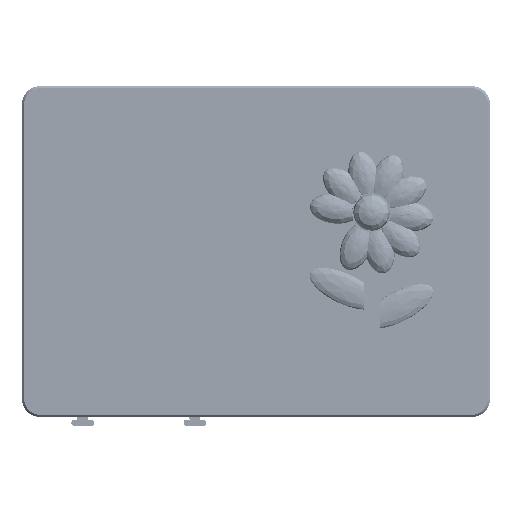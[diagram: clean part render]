
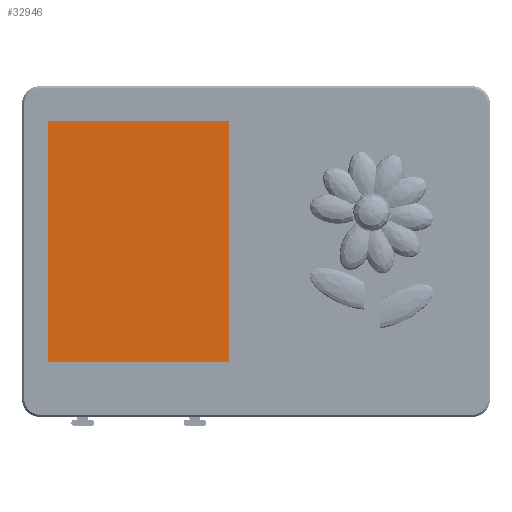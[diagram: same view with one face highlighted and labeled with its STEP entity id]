
A CAD part, top view. The second image highlights one B-rep face of the part: STEP entity #32946.
In plain terms, the highlighted planar face has unit normal (0, 0, 1).
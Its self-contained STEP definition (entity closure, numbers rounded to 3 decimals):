
#32777 = PLANE('',#32778);
#32778 = AXIS2_PLACEMENT_3D('',#32779,#32780,#32781);
#32779 = CARTESIAN_POINT('',(-35.1,22.1,10.3));
#32780 = DIRECTION('',(0.,-1.,0.));
#32781 = DIRECTION('',(1.,0.,0.));
#32805 = PLANE('',#32806);
#32806 = AXIS2_PLACEMENT_3D('',#32807,#32808,#32809);
#32807 = CARTESIAN_POINT('',(-35.1,-18.7,10.3));
#32808 = DIRECTION('',(1.,0.,0.));
#32809 = DIRECTION('',(0.,1.,0.));
#32833 = PLANE('',#32834);
#32834 = AXIS2_PLACEMENT_3D('',#32835,#32836,#32837);
#32835 = CARTESIAN_POINT('',(-4.5,-18.7,10.3));
#32836 = DIRECTION('',(0.,1.,0.));
#32837 = DIRECTION('',(-1.,0.,0.));
#32859 = PLANE('',#32860);
#32860 = AXIS2_PLACEMENT_3D('',#32861,#32862,#32863);
#32861 = CARTESIAN_POINT('',(-4.5,22.1,10.3));
#32862 = DIRECTION('',(-1.,0.,0.));
#32863 = DIRECTION('',(0.,-1.,0.));
#32874 = EDGE_CURVE('',#32875,#32877,#32879,.T.);
#32875 = VERTEX_POINT('',#32876);
#32876 = CARTESIAN_POINT('',(-35.1,22.1,10.35));
#32877 = VERTEX_POINT('',#32878);
#32878 = CARTESIAN_POINT('',(-4.5,22.1,10.35));
#32879 = SURFACE_CURVE('',#32880,(#32884,#32891),.PCURVE_S1.);
#32880 = LINE('',#32881,#32882);
#32881 = CARTESIAN_POINT('',(-35.1,22.1,10.35));
#32882 = VECTOR('',#32883,1.);
#32883 = DIRECTION('',(1.,0.,0.));
#32884 = PCURVE('',#32777,#32885);
#32885 = DEFINITIONAL_REPRESENTATION('',(#32886),#32890);
#32886 = LINE('',#32887,#32888);
#32887 = CARTESIAN_POINT('',(0.,0.05));
#32888 = VECTOR('',#32889,1.);
#32889 = DIRECTION('',(1.,0.));
#32890 = ( GEOMETRIC_REPRESENTATION_CONTEXT(2) 
PARAMETRIC_REPRESENTATION_CONTEXT() REPRESENTATION_CONTEXT('2D SPACE',''
  ) );
#32891 = PCURVE('',#32892,#32897);
#32892 = PLANE('',#32893);
#32893 = AXIS2_PLACEMENT_3D('',#32894,#32895,#32896);
#32894 = CARTESIAN_POINT('',(-19.8,1.7,10.35));
#32895 = DIRECTION('',(0.,0.,1.));
#32896 = DIRECTION('',(1.,0.,0.));
#32897 = DEFINITIONAL_REPRESENTATION('',(#32898),#32902);
#32898 = LINE('',#32899,#32900);
#32899 = CARTESIAN_POINT('',(-15.3,20.4));
#32900 = VECTOR('',#32901,1.);
#32901 = DIRECTION('',(1.,0.));
#32902 = ( GEOMETRIC_REPRESENTATION_CONTEXT(2) 
PARAMETRIC_REPRESENTATION_CONTEXT() REPRESENTATION_CONTEXT('2D SPACE',''
  ) );
#32946 = ADVANCED_FACE('',(#32947),#32892,.T.);
#32947 = FACE_BOUND('',#32948,.F.);
#32948 = EDGE_LOOP('',(#32949,#32950,#32973,#32996));
#32949 = ORIENTED_EDGE('',*,*,#32874,.T.);
#32950 = ORIENTED_EDGE('',*,*,#32951,.F.);
#32951 = EDGE_CURVE('',#32952,#32877,#32954,.T.);
#32952 = VERTEX_POINT('',#32953);
#32953 = CARTESIAN_POINT('',(-4.5,-18.7,10.35));
#32954 = SURFACE_CURVE('',#32955,(#32959,#32966),.PCURVE_S1.);
#32955 = LINE('',#32956,#32957);
#32956 = CARTESIAN_POINT('',(-4.5,-18.7,10.35));
#32957 = VECTOR('',#32958,1.);
#32958 = DIRECTION('',(0.,1.,0.));
#32959 = PCURVE('',#32892,#32960);
#32960 = DEFINITIONAL_REPRESENTATION('',(#32961),#32965);
#32961 = LINE('',#32962,#32963);
#32962 = CARTESIAN_POINT('',(15.3,-20.4));
#32963 = VECTOR('',#32964,1.);
#32964 = DIRECTION('',(0.,1.));
#32965 = ( GEOMETRIC_REPRESENTATION_CONTEXT(2) 
PARAMETRIC_REPRESENTATION_CONTEXT() REPRESENTATION_CONTEXT('2D SPACE',''
  ) );
#32966 = PCURVE('',#32859,#32967);
#32967 = DEFINITIONAL_REPRESENTATION('',(#32968),#32972);
#32968 = LINE('',#32969,#32970);
#32969 = CARTESIAN_POINT('',(40.8,0.05));
#32970 = VECTOR('',#32971,1.);
#32971 = DIRECTION('',(-1.,0.));
#32972 = ( GEOMETRIC_REPRESENTATION_CONTEXT(2) 
PARAMETRIC_REPRESENTATION_CONTEXT() REPRESENTATION_CONTEXT('2D SPACE',''
  ) );
#32973 = ORIENTED_EDGE('',*,*,#32974,.F.);
#32974 = EDGE_CURVE('',#32975,#32952,#32977,.T.);
#32975 = VERTEX_POINT('',#32976);
#32976 = CARTESIAN_POINT('',(-35.1,-18.7,10.35));
#32977 = SURFACE_CURVE('',#32978,(#32982,#32989),.PCURVE_S1.);
#32978 = LINE('',#32979,#32980);
#32979 = CARTESIAN_POINT('',(-35.1,-18.7,10.35));
#32980 = VECTOR('',#32981,1.);
#32981 = DIRECTION('',(1.,0.,0.));
#32982 = PCURVE('',#32892,#32983);
#32983 = DEFINITIONAL_REPRESENTATION('',(#32984),#32988);
#32984 = LINE('',#32985,#32986);
#32985 = CARTESIAN_POINT('',(-15.3,-20.4));
#32986 = VECTOR('',#32987,1.);
#32987 = DIRECTION('',(1.,0.));
#32988 = ( GEOMETRIC_REPRESENTATION_CONTEXT(2) 
PARAMETRIC_REPRESENTATION_CONTEXT() REPRESENTATION_CONTEXT('2D SPACE',''
  ) );
#32989 = PCURVE('',#32833,#32990);
#32990 = DEFINITIONAL_REPRESENTATION('',(#32991),#32995);
#32991 = LINE('',#32992,#32993);
#32992 = CARTESIAN_POINT('',(30.6,0.05));
#32993 = VECTOR('',#32994,1.);
#32994 = DIRECTION('',(-1.,0.));
#32995 = ( GEOMETRIC_REPRESENTATION_CONTEXT(2) 
PARAMETRIC_REPRESENTATION_CONTEXT() REPRESENTATION_CONTEXT('2D SPACE',''
  ) );
#32996 = ORIENTED_EDGE('',*,*,#32997,.T.);
#32997 = EDGE_CURVE('',#32975,#32875,#32998,.T.);
#32998 = SURFACE_CURVE('',#32999,(#33003,#33010),.PCURVE_S1.);
#32999 = LINE('',#33000,#33001);
#33000 = CARTESIAN_POINT('',(-35.1,-18.7,10.35));
#33001 = VECTOR('',#33002,1.);
#33002 = DIRECTION('',(0.,1.,0.));
#33003 = PCURVE('',#32892,#33004);
#33004 = DEFINITIONAL_REPRESENTATION('',(#33005),#33009);
#33005 = LINE('',#33006,#33007);
#33006 = CARTESIAN_POINT('',(-15.3,-20.4));
#33007 = VECTOR('',#33008,1.);
#33008 = DIRECTION('',(0.,1.));
#33009 = ( GEOMETRIC_REPRESENTATION_CONTEXT(2) 
PARAMETRIC_REPRESENTATION_CONTEXT() REPRESENTATION_CONTEXT('2D SPACE',''
  ) );
#33010 = PCURVE('',#32805,#33011);
#33011 = DEFINITIONAL_REPRESENTATION('',(#33012),#33016);
#33012 = LINE('',#33013,#33014);
#33013 = CARTESIAN_POINT('',(0.,0.05));
#33014 = VECTOR('',#33015,1.);
#33015 = DIRECTION('',(1.,0.));
#33016 = ( GEOMETRIC_REPRESENTATION_CONTEXT(2) 
PARAMETRIC_REPRESENTATION_CONTEXT() REPRESENTATION_CONTEXT('2D SPACE',''
  ) );
